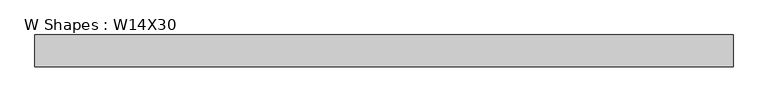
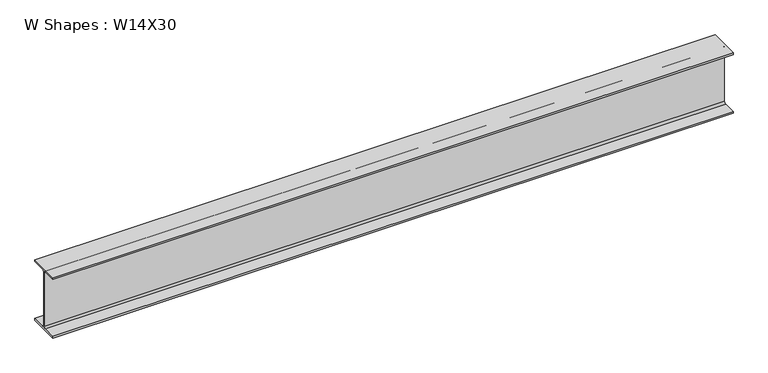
"""IFC4 building model written with IfcOpenShell, lengths in millimetres: beam geometry, W Shapes : W14X30."""

from ifc_helpers import new_model, si_unit, point, frame, frame_2d, origin, place, context, project, spatial, polyline, circle_curve, trimmed, segment, composite_curve, outline, extrude, source, transform, mapped, element, save


def w_shapes_w14x30_27a744b6(model_context):
    return source(origin(), model_context, "Body", "SweptSolid", [
        extrude(outline(composite_curve([segment(polyline([(85.471, -165.354), (85.471, -175.26), (-85.471, -175.26), (-85.471, -165.354), (-13.589, -165.354)]), True, "CONTINUOUS"), segment(trimmed(circle_curve(frame_2d((-13.589, -155.194)), 10.16), [point((-13.589, -165.354))], [point((-3.429, -155.194))], True, "CARTESIAN"), True, "CONTINUOUS"), segment(polyline([(-3.429, -155.194), (-3.429, 155.194)]), True, "CONTINUOUS"), segment(trimmed(circle_curve(frame_2d((-13.589, 155.194)), 10.16), [point((-3.429, 155.194))], [point((-13.589, 165.354))], True, "CARTESIAN"), True, "CONTINUOUS"), segment(polyline([(-13.589, 165.354), (-85.471, 165.354), (-85.471, 175.26), (85.471, 175.26), (85.471, 165.354), (13.589, 165.354)]), True, "CONTINUOUS"), segment(trimmed(circle_curve(frame_2d((13.589, 155.194)), 10.16), [point((13.589, 165.354))], [point((3.429, 155.194))], True, "CARTESIAN"), True, "CONTINUOUS"), segment(polyline([(3.429, 155.194), (3.429, -155.194)]), True, "CONTINUOUS"), segment(trimmed(circle_curve(frame_2d((13.589, -155.194)), 10.16), [point((3.429, -155.194))], [point((13.589, -165.354))], True, "CARTESIAN"), True, "CONTINUOUS"), segment(polyline([(13.589, -165.354), (85.471, -165.354)]), True, "CONTINUOUS")], self_intersect=False)), frame((-1863.3023799, 0.0, 0.0), z_axis=(1.0, 0.0, 0.0), x_axis=(0.0, 1.0, 0.0)), (0.0, 0.0, 1.0), 3726.6047599),
    ])


if __name__ == "__main__":
    model = new_model("IFC4")
    model_context = context("Model", 3, world=origin())
    ifc_project = project(units=[si_unit("LENGTHUNIT", "METRE", prefix="MILLI")], contexts=[model_context])
    site = spatial("IfcSite", under=ifc_project)
    building = spatial("IfcBuilding", under=site)
    placement = place(None, origin())
    w_shapes_w14x30_shape = w_shapes_w14x30_27a744b6(model_context)
    element("IfcBeam", 1, ObjectType="W Shapes : W14X30", at=placement, inside=building, context=model_context, shape_type="MappedRepresentation", body=[
        mapped(w_shapes_w14x30_shape, transform((0.0, 0.0, 0.0), x_axis=(1.0, 0.0, 0.0), y_axis=(0.0, 1.0, 0.0), z_axis=(0.0, 0.0, 1.0))),
    ])
    save(model, "model.ifc")
